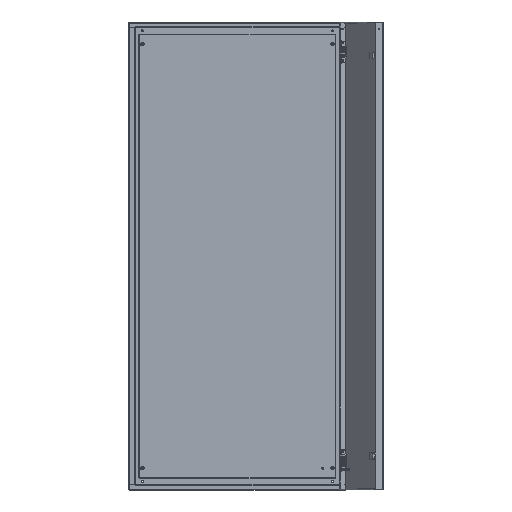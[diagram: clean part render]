
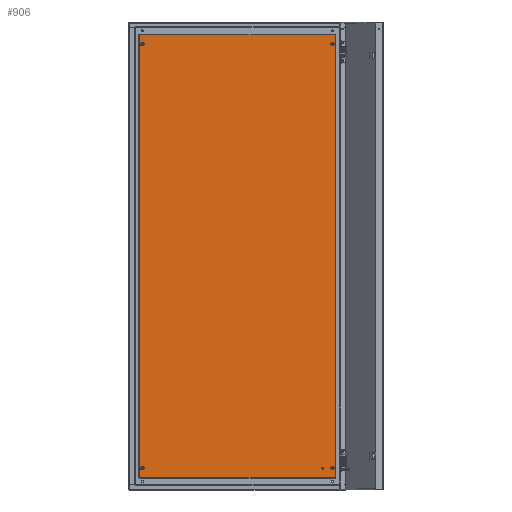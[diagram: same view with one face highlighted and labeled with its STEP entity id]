
A CAD part, top view. The second image highlights one B-rep face of the part: STEP entity #906.
In plain terms, the highlighted planar face has unit normal (0, 0, 1).
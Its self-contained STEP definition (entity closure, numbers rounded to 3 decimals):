
#39 = ORIENTED_EDGE ( 'NONE', *, *, #1383, .F. ) ;
#58 = FACE_BOUND ( 'NONE', #7233, .T. ) ;
#141 = CIRCLE ( 'NONE', #7096, 4. ) ;
#206 = CIRCLE ( 'NONE', #2122, 4. ) ;
#594 = DIRECTION ( 'NONE',  ( 0., 0., 1. ) ) ;
#803 = ORIENTED_EDGE ( 'NONE', *, *, #8461, .T. ) ;
#906 = ADVANCED_FACE ( 'NONE', ( #6965, #2864, #3508, #8782, #58, #10927 ), #10859, .F. ) ;
#956 = DIRECTION ( 'NONE',  ( 0., 0., 1. ) ) ;
#983 = ORIENTED_EDGE ( 'NONE', *, *, #3141, .F. ) ;
#988 = AXIS2_PLACEMENT_3D ( 'NONE', #5604, #6707, #13142 ) ;
#1048 = EDGE_LOOP ( 'NONE', ( #6462, #4947 ) ) ;
#1059 = AXIS2_PLACEMENT_3D ( 'NONE', #11025, #3511, #2534 ) ;
#1181 = VECTOR ( 'NONE', #8348, 1000. ) ;
#1206 = CARTESIAN_POINT ( 'NONE',  ( 10., 30., 0. ) ) ;
#1336 = VERTEX_POINT ( 'NONE', #4397 ) ;
#1341 = CIRCLE ( 'NONE', #1059, 3. ) ;
#1383 = EDGE_CURVE ( 'NONE', #4206, #12545, #206, .T. ) ;
#1480 = CARTESIAN_POINT ( 'NONE',  ( 576., 30., 0. ) ) ;
#1774 = VECTOR ( 'NONE', #12858, 1000. ) ;
#1963 = DIRECTION ( 'NONE',  ( 1., 0., 0. ) ) ;
#2067 = ORIENTED_EDGE ( 'NONE', *, *, #3988, .F. ) ;
#2122 = AXIS2_PLACEMENT_3D ( 'NONE', #2535, #3685, #8943 ) ;
#2127 = CARTESIAN_POINT ( 'NONE',  ( 1.907, 1.937, 0. ) ) ;
#2188 = CARTESIAN_POINT ( 'NONE',  ( 10., 1300., 0. ) ) ;
#2378 = DIRECTION ( 'NONE',  ( -1., 0., 0. ) ) ;
#2452 = LINE ( 'NONE', #3431, #1774 ) ;
#2534 = DIRECTION ( 'NONE',  ( -1., 0., 0. ) ) ;
#2535 = CARTESIAN_POINT ( 'NONE',  ( 580., 30., 0. ) ) ;
#2565 = VERTEX_POINT ( 'NONE', #11978 ) ;
#2588 = DIRECTION ( 'NONE',  ( 0., -1., 0. ) ) ;
#2832 = DIRECTION ( 'NONE',  ( 0., 0., 1. ) ) ;
#2864 = FACE_BOUND ( 'NONE', #12088, .T. ) ;
#2887 = EDGE_CURVE ( 'NONE', #9986, #6596, #5929, .T. ) ;
#3141 = EDGE_CURVE ( 'NONE', #10151, #4861, #3946, .T. ) ;
#3259 = DIRECTION ( 'NONE',  ( 1., 0., 0. ) ) ;
#3307 = AXIS2_PLACEMENT_3D ( 'NONE', #13053, #3616, #5733 ) ;
#3385 = LINE ( 'NONE', #10990, #8325 ) ;
#3431 = CARTESIAN_POINT ( 'NONE',  ( 588.093, 1328.063, 0. ) ) ;
#3447 = VERTEX_POINT ( 'NONE', #8136 ) ;
#3508 = FACE_BOUND ( 'NONE', #5412, .T. ) ;
#3511 = DIRECTION ( 'NONE',  ( 0., 0., 1. ) ) ;
#3513 = AXIS2_PLACEMENT_3D ( 'NONE', #13023, #8749, #12889 ) ;
#3616 = DIRECTION ( 'NONE',  ( 0., 0., 1. ) ) ;
#3649 = AXIS2_PLACEMENT_3D ( 'NONE', #1206, #5429, #2378 ) ;
#3685 = DIRECTION ( 'NONE',  ( 0., 0., 1. ) ) ;
#3808 = VERTEX_POINT ( 'NONE', #11206 ) ;
#3856 = EDGE_CURVE ( 'NONE', #4861, #10151, #141, .T. ) ;
#3898 = CARTESIAN_POINT ( 'NONE',  ( 10., 30., 0. ) ) ;
#3946 = CIRCLE ( 'NONE', #3649, 4. ) ;
#3956 = DIRECTION ( 'NONE',  ( 0., 0., 1. ) ) ;
#3988 = EDGE_CURVE ( 'NONE', #6596, #9986, #9860, .T. ) ;
#4008 = CARTESIAN_POINT ( 'NONE',  ( 10., 1300., 0. ) ) ;
#4023 = CIRCLE ( 'NONE', #3307, 4. ) ;
#4156 = CARTESIAN_POINT ( 'NONE',  ( 1.937, 1.937, 0. ) ) ;
#4206 = VERTEX_POINT ( 'NONE', #1480 ) ;
#4397 = CARTESIAN_POINT ( 'NONE',  ( 588.063, 1328.063, 0. ) ) ;
#4409 = EDGE_CURVE ( 'NONE', #11075, #9350, #5546, .T. ) ;
#4449 = EDGE_LOOP ( 'NONE', ( #5254, #11138 ) ) ;
#4604 = VERTEX_POINT ( 'NONE', #9432 ) ;
#4847 = CARTESIAN_POINT ( 'NONE',  ( 580., 1300., 0. ) ) ;
#4861 = VERTEX_POINT ( 'NONE', #10078 ) ;
#4947 = ORIENTED_EDGE ( 'NONE', *, *, #11172, .F. ) ;
#4971 = ORIENTED_EDGE ( 'NONE', *, *, #3856, .F. ) ;
#5074 = CARTESIAN_POINT ( 'NONE',  ( 584., 30., 0. ) ) ;
#5187 = ORIENTED_EDGE ( 'NONE', *, *, #4409, .T. ) ;
#5254 = ORIENTED_EDGE ( 'NONE', *, *, #12123, .F. ) ;
#5412 = EDGE_LOOP ( 'NONE', ( #9678, #39 ) ) ;
#5429 = DIRECTION ( 'NONE',  ( 0., 0., 1. ) ) ;
#5546 = LINE ( 'NONE', #2127, #11000 ) ;
#5604 = CARTESIAN_POINT ( 'NONE',  ( 0., 0., 0. ) ) ;
#5733 = DIRECTION ( 'NONE',  ( 1., 0., 0. ) ) ;
#5929 = CIRCLE ( 'NONE', #12236, 4. ) ;
#6023 = EDGE_CURVE ( 'NONE', #2565, #3808, #10811, .T. ) ;
#6038 = CIRCLE ( 'NONE', #6519, 3. ) ;
#6462 = ORIENTED_EDGE ( 'NONE', *, *, #6023, .F. ) ;
#6479 = EDGE_CURVE ( 'NONE', #12545, #4206, #4023, .T. ) ;
#6519 = AXIS2_PLACEMENT_3D ( 'NONE', #7227, #956, #8304 ) ;
#6596 = VERTEX_POINT ( 'NONE', #13448 ) ;
#6617 = CARTESIAN_POINT ( 'NONE',  ( 588.063, 1.937, 0. ) ) ;
#6707 = DIRECTION ( 'NONE',  ( 0., 0., -1. ) ) ;
#6926 = ORIENTED_EDGE ( 'NONE', *, *, #13150, .T. ) ;
#6965 = FACE_BOUND ( 'NONE', #4449, .T. ) ;
#7096 = AXIS2_PLACEMENT_3D ( 'NONE', #3898, #3956, #13491 ) ;
#7181 = CARTESIAN_POINT ( 'NONE',  ( 588.063, 1.907, 0. ) ) ;
#7227 = CARTESIAN_POINT ( 'NONE',  ( 550., 30., 0. ) ) ;
#7233 = EDGE_LOOP ( 'NONE', ( #2067, #8241 ) ) ;
#7841 = EDGE_LOOP ( 'NONE', ( #6926, #5187, #803, #8474 ) ) ;
#8136 = CARTESIAN_POINT ( 'NONE',  ( 553., 30., 0. ) ) ;
#8241 = ORIENTED_EDGE ( 'NONE', *, *, #2887, .F. ) ;
#8304 = DIRECTION ( 'NONE',  ( -1., 0., 0. ) ) ;
#8325 = VECTOR ( 'NONE', #2588, 1000. ) ;
#8348 = DIRECTION ( 'NONE',  ( 0., 1., 0. ) ) ;
#8461 = EDGE_CURVE ( 'NONE', #9350, #1336, #12238, .T. ) ;
#8474 = ORIENTED_EDGE ( 'NONE', *, *, #11820, .T. ) ;
#8749 = DIRECTION ( 'NONE',  ( 0., 0., 1. ) ) ;
#8782 = FACE_BOUND ( 'NONE', #1048, .T. ) ;
#8943 = DIRECTION ( 'NONE',  ( 1., 0., 0. ) ) ;
#9214 = CARTESIAN_POINT ( 'NONE',  ( 6., 1300., 0. ) ) ;
#9350 = VERTEX_POINT ( 'NONE', #6617 ) ;
#9428 = DIRECTION ( 'NONE',  ( 1., 0., 0. ) ) ;
#9432 = CARTESIAN_POINT ( 'NONE',  ( 1.937, 1328.063, 0. ) ) ;
#9525 = CARTESIAN_POINT ( 'NONE',  ( 6., 30., 0. ) ) ;
#9678 = ORIENTED_EDGE ( 'NONE', *, *, #6479, .F. ) ;
#9816 = EDGE_CURVE ( 'NONE', #3447, #10090, #1341, .T. ) ;
#9860 = CIRCLE ( 'NONE', #10723, 4. ) ;
#9906 = DIRECTION ( 'NONE',  ( -1., 0., 0. ) ) ;
#9986 = VERTEX_POINT ( 'NONE', #9214 ) ;
#10078 = CARTESIAN_POINT ( 'NONE',  ( 14., 30., 0. ) ) ;
#10090 = VERTEX_POINT ( 'NONE', #11590 ) ;
#10151 = VERTEX_POINT ( 'NONE', #9525 ) ;
#10723 = AXIS2_PLACEMENT_3D ( 'NONE', #2188, #13592, #9428 ) ;
#10811 = CIRCLE ( 'NONE', #11883, 4. ) ;
#10859 = PLANE ( 'NONE',  #988 ) ;
#10927 = FACE_OUTER_BOUND ( 'NONE', #7841, .T. ) ;
#10990 = CARTESIAN_POINT ( 'NONE',  ( 1.937, 1328.093, 0. ) ) ;
#11000 = VECTOR ( 'NONE', #3259, 1000. ) ;
#11025 = CARTESIAN_POINT ( 'NONE',  ( 550., 30., 0. ) ) ;
#11075 = VERTEX_POINT ( 'NONE', #4156 ) ;
#11138 = ORIENTED_EDGE ( 'NONE', *, *, #9816, .F. ) ;
#11172 = EDGE_CURVE ( 'NONE', #3808, #2565, #12178, .T. ) ;
#11206 = CARTESIAN_POINT ( 'NONE',  ( 576., 1300., 0. ) ) ;
#11590 = CARTESIAN_POINT ( 'NONE',  ( 547., 30., 0. ) ) ;
#11820 = EDGE_CURVE ( 'NONE', #1336, #4604, #2452, .T. ) ;
#11883 = AXIS2_PLACEMENT_3D ( 'NONE', #4847, #594, #9906 ) ;
#11978 = CARTESIAN_POINT ( 'NONE',  ( 584., 1300., 0. ) ) ;
#12088 = EDGE_LOOP ( 'NONE', ( #4971, #983 ) ) ;
#12123 = EDGE_CURVE ( 'NONE', #10090, #3447, #6038, .T. ) ;
#12178 = CIRCLE ( 'NONE', #3513, 4. ) ;
#12236 = AXIS2_PLACEMENT_3D ( 'NONE', #4008, #2832, #1963 ) ;
#12238 = LINE ( 'NONE', #7181, #1181 ) ;
#12545 = VERTEX_POINT ( 'NONE', #5074 ) ;
#12858 = DIRECTION ( 'NONE',  ( -1., 0., 0. ) ) ;
#12889 = DIRECTION ( 'NONE',  ( -1., 0., 0. ) ) ;
#13023 = CARTESIAN_POINT ( 'NONE',  ( 580., 1300., 0. ) ) ;
#13053 = CARTESIAN_POINT ( 'NONE',  ( 580., 30., 0. ) ) ;
#13142 = DIRECTION ( 'NONE',  ( -1., 0., 0. ) ) ;
#13150 = EDGE_CURVE ( 'NONE', #4604, #11075, #3385, .T. ) ;
#13448 = CARTESIAN_POINT ( 'NONE',  ( 14., 1300., 0. ) ) ;
#13491 = DIRECTION ( 'NONE',  ( -1., 0., 0. ) ) ;
#13592 = DIRECTION ( 'NONE',  ( 0., 0., 1. ) ) ;
